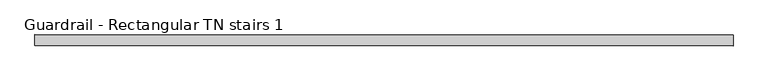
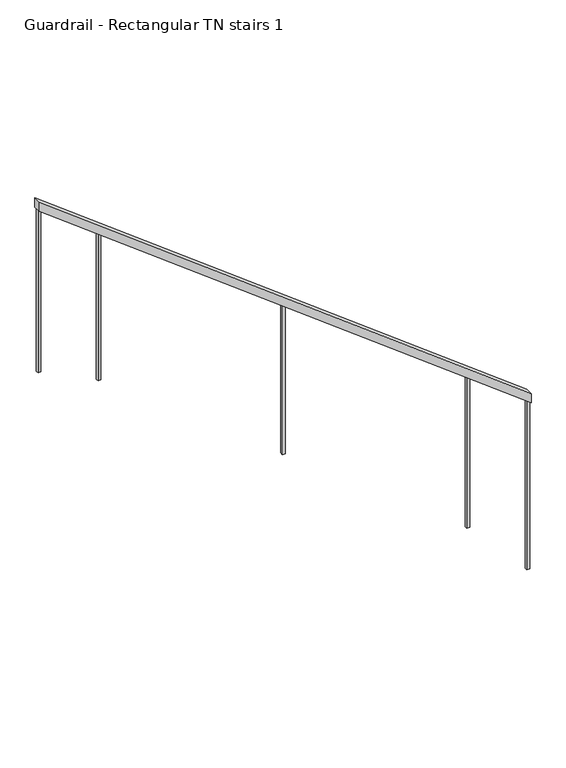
"""IFC4 building model written with IfcOpenShell, lengths in millimetres: railing geometry, Guardrail - Rectangular TN stairs 1."""

from ifc_helpers import new_model, si_unit, frame, origin, place, context, project, spatial, polyline, outline, extrude, source, transform, mapped, element, save


def guardrail_rectangular_tn_stairs_1_12bd660e(model_context):
    return source(origin(), model_context, "Body", "SweptSolid", [
        extrude(outline(polyline([(3788.7047619, -20810.1239276), (3724.8400722, -20810.1239276), (1286.7448341, -17610.1239276), (1350.6095238, -17610.1239276), (3788.7047619, -20810.1239276)])), frame((0.0, -13907.6966791, 0.0), z_axis=(0.0, 1.0, 0.0), x_axis=(0.0, 0.0, 1.0)), (0.0, 0.0, 1.0), 50.8),
        extrude(outline(polyline([(1584.249596, -18000.5989276), (1598.7638817, -18019.6489276), (557.1428571, -18019.6489276), (557.1428571, -18000.5989276), (1584.249596, -18000.5989276)])), frame((0.0, -13891.8216791, 0.0), z_axis=(0.0, 1.0, 0.0), x_axis=(0.0, 0.0, 1.0)), (0.0, 0.0, 1.0), 19.05),
        extrude(outline(polyline([(2498.5353103, -19200.5989276), (2513.049596, -19219.6489276), (1485.7142857, -19219.6489276), (1485.7142857, -19200.5989276), (2498.5353103, -19200.5989276)])), frame((0.0, -13891.8216791, 0.0), z_axis=(0.0, 1.0, 0.0), x_axis=(0.0, 0.0, 1.0)), (0.0, 0.0, 1.0), 19.05),
        extrude(outline(polyline([(3412.8210246, -20400.5989276), (3427.3353103, -20419.6489276), (2414.2857143, -20419.6489276), (2414.2857143, -20400.5989276), (3412.8210246, -20400.5989276)])), frame((0.0, -13891.8216791, 0.0), z_axis=(0.0, 1.0, 0.0), x_axis=(0.0, 0.0, 1.0)), (0.0, 0.0, 1.0), 19.05),
        extrude(outline(polyline([(1286.7257865, -17610.0989276), (1301.2400722, -17629.1489276), (135.7142857, -17629.1489276), (135.7142857, -17610.0989276), (1286.7257865, -17610.0989276)])), frame((0.0, -13891.8216791, 0.0), z_axis=(0.0, 1.0, 0.0), x_axis=(0.0, 0.0, 1.0)), (0.0, 0.0, 1.0), 19.05),
        extrude(outline(polyline([(3710.3448341, -20791.0989276), (3724.8591198, -20810.1489276), (2604.6666667, -20810.1489276), (2604.6666667, -20791.0989276), (3710.3448341, -20791.0989276)])), frame((0.0, -13891.8216791, 0.0), z_axis=(0.0, 1.0, 0.0), x_axis=(0.0, 0.0, 1.0)), (0.0, 0.0, 1.0), 19.05),
    ])


if __name__ == "__main__":
    model = new_model("IFC4")
    model_context = context("Model", 3, world=origin())
    ifc_project = project(units=[si_unit("LENGTHUNIT", "METRE", prefix="MILLI")], contexts=[model_context])
    site = spatial("IfcSite", under=ifc_project)
    building = spatial("IfcBuilding", under=site)
    placement = place(None, origin())
    guardrail_rectangular_tn_stairs_1_shape = guardrail_rectangular_tn_stairs_1_12bd660e(model_context)
    element("IfcRailing", 1, ObjectType="Guardrail - Rectangular TN stairs 1", at=placement, inside=building, context=model_context, shape_type="MappedRepresentation", body=[
        mapped(guardrail_rectangular_tn_stairs_1_shape, transform((0.0, 0.0, 0.0), x_axis=(1.0, 0.0, 0.0), y_axis=(0.0, 1.0, 0.0), z_axis=(0.0, 0.0, 1.0))),
    ])
    save(model, "model.ifc")
